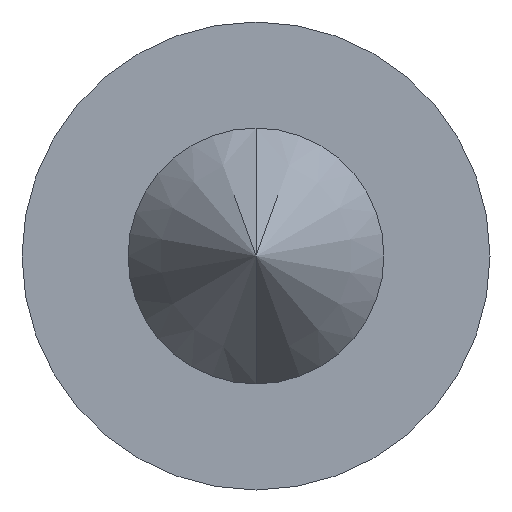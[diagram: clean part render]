
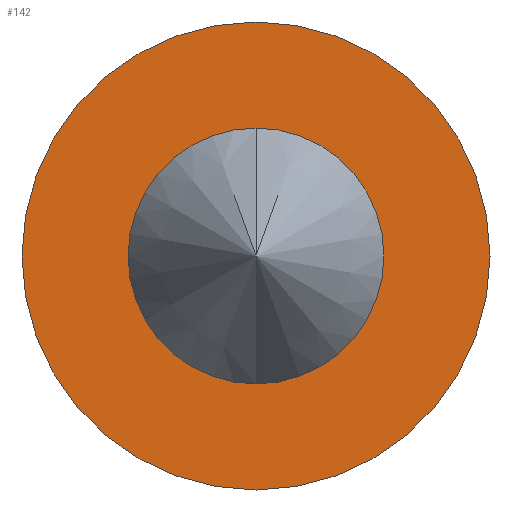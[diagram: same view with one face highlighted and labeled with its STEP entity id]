
A CAD part, front view. The second image highlights one B-rep face of the part: STEP entity #142.
In plain terms, the highlighted planar face has unit normal (0, -1, 0).
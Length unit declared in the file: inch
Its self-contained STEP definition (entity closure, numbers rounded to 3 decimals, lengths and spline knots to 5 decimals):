
#10 = DIRECTION ( 'NONE',  ( 0., -1., 0. ) ) ;
#44 = PLANE ( 'NONE',  #359 ) ;
#68 = CARTESIAN_POINT ( 'NONE',  ( 0., -0.252, 0. ) ) ;
#70 = DIRECTION ( 'NONE',  ( 0., 0., -1. ) ) ;
#82 = AXIS2_PLACEMENT_3D ( 'NONE', #358, #147, #237 ) ;
#92 = AXIS2_PLACEMENT_3D ( 'NONE', #156, #215, #149 ) ;
#103 = CARTESIAN_POINT ( 'NONE',  ( 0., -0.252, -0.108 ) ) ;
#105 = EDGE_CURVE ( 'NONE', #222, #339, #130, .T. ) ;
#122 = ORIENTED_EDGE ( 'NONE', *, *, #105, .F. ) ;
#127 = ORIENTED_EDGE ( 'NONE', *, *, #172, .T. ) ;
#130 = CIRCLE ( 'NONE', #368, 0.108 ) ;
#140 = EDGE_CURVE ( 'NONE', #304, #306, #150, .T. ) ;
#141 = DIRECTION ( 'NONE',  ( 0., 0., -1. ) ) ;
#142 = ADVANCED_FACE ( 'NONE', ( #272, #205 ), #44, .T. ) ;
#147 = DIRECTION ( 'NONE',  ( 0., -1., 0. ) ) ;
#149 = DIRECTION ( 'NONE',  ( 0., 0., -1. ) ) ;
#150 = CIRCLE ( 'NONE', #82, 0.1975 ) ;
#156 = CARTESIAN_POINT ( 'NONE',  ( 0., -0.252, 0. ) ) ;
#158 = EDGE_LOOP ( 'NONE', ( #122, #257 ) ) ;
#161 = CARTESIAN_POINT ( 'NONE',  ( 0., -0.252, 0.108 ) ) ;
#172 = EDGE_CURVE ( 'NONE', #306, #304, #177, .T. ) ;
#177 = CIRCLE ( 'NONE', #92, 0.1975 ) ;
#182 = CARTESIAN_POINT ( 'NONE',  ( 0., -0.252, -0.108 ) ) ;
#194 = CARTESIAN_POINT ( 'NONE',  ( 0., -0.252, -0.1975 ) ) ;
#205 = FACE_BOUND ( 'NONE', #158, .T. ) ;
#209 = EDGE_LOOP ( 'NONE', ( #127, #255 ) ) ;
#212 = CARTESIAN_POINT ( 'NONE',  ( 0., -0.252, 0. ) ) ;
#215 = DIRECTION ( 'NONE',  ( 0., -1., 0. ) ) ;
#222 = VERTEX_POINT ( 'NONE', #182 ) ;
#224 = CARTESIAN_POINT ( 'NONE',  ( 0., -0.252, 0.1975 ) ) ;
#230 = DIRECTION ( 'NONE',  ( 0., -1., 0. ) ) ;
#233 = DIRECTION ( 'NONE',  ( 0., -1., 0. ) ) ;
#237 = DIRECTION ( 'NONE',  ( 0., 0., -1. ) ) ;
#244 = CIRCLE ( 'NONE', #268, 0.108 ) ;
#255 = ORIENTED_EDGE ( 'NONE', *, *, #140, .T. ) ;
#257 = ORIENTED_EDGE ( 'NONE', *, *, #379, .F. ) ;
#268 = AXIS2_PLACEMENT_3D ( 'NONE', #68, #10, #313 ) ;
#272 = FACE_OUTER_BOUND ( 'NONE', #209, .T. ) ;
#304 = VERTEX_POINT ( 'NONE', #224 ) ;
#306 = VERTEX_POINT ( 'NONE', #194 ) ;
#313 = DIRECTION ( 'NONE',  ( 0., 0., -1. ) ) ;
#339 = VERTEX_POINT ( 'NONE', #161 ) ;
#358 = CARTESIAN_POINT ( 'NONE',  ( 0., -0.252, 0. ) ) ;
#359 = AXIS2_PLACEMENT_3D ( 'NONE', #103, #230, #70 ) ;
#368 = AXIS2_PLACEMENT_3D ( 'NONE', #212, #233, #141 ) ;
#379 = EDGE_CURVE ( 'NONE', #339, #222, #244, .T. ) ;
